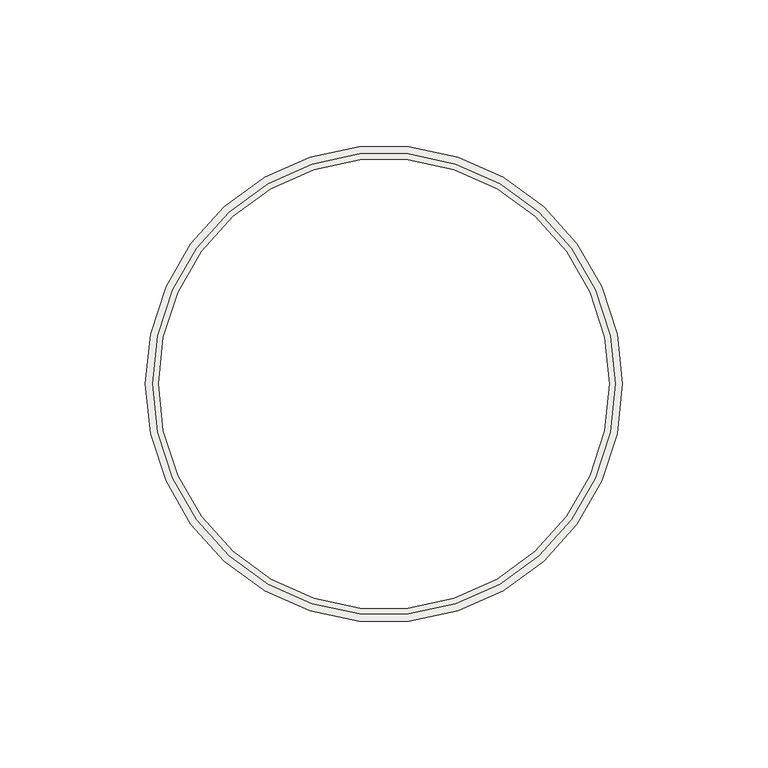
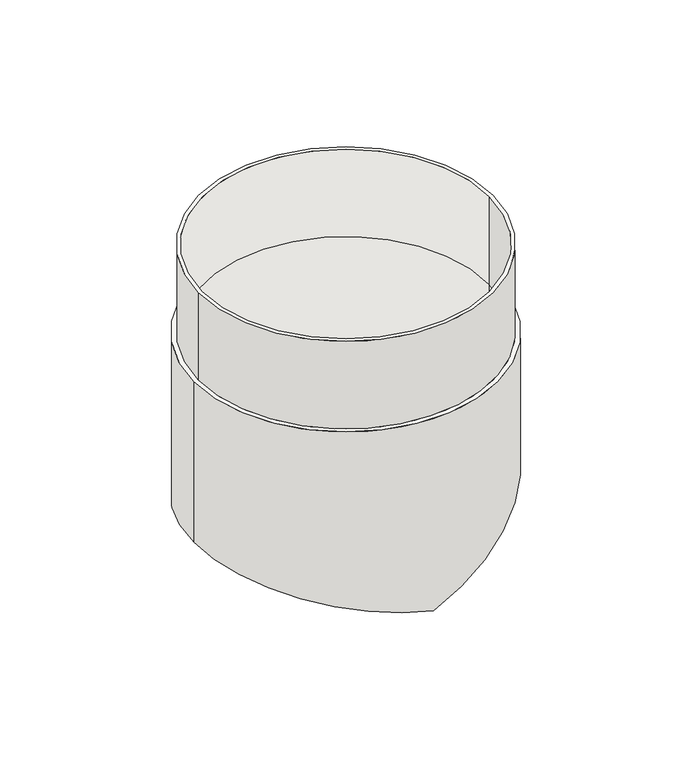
"""IFC4 building model written with IfcOpenShell, lengths in millimetres: covering geometry, NLRS_57_GM_WPB_adjustable collar_M&G : ø160 - Black."""

from ifc_helpers import new_model, si_unit, frame, origin, origin_with_axes, place, context, project, spatial, polyline, circle_curve, ellipse_curve, source, transform, mapped, element, save
from ifc_brep_helpers import plane_surface, cylinder_surface, revolved_surface, advanced_brep


def covering_a2d9a1ae(model_context):
    return source(origin(), model_context, "Body", "AdvancedBrep", [
        advanced_brep(
        [(-79.5, 0.0, 50.0), (79.5, 0.0, 50.0), (-77.5, 0.0, 50.0), (77.5, 0.0, 50.0), (-79.5, 0.0, 0.0), (79.5, 0.0, 0.0), (-77.5, 0.0, 0.0), (77.5, 0.0, 0.0), (-82.0, 0.0, 0.0), (82.0, 0.0, 0.0), (-82.0, 0.0, -91.8210377), (0.0, -82.0, -110.0), (82.0, 0.0, -71.762772), (0.0, 82.0, -110.0), (-77.5, 0.0, -92.8186636), (0.0, 77.5, -110.0), (77.5, 0.0, -73.8611565), (0.0, -77.5, -110.0)],
        [
            (0, 1, circle_curve(frame((0.0, 0.0, 50.0), z_axis=(0.0, 0.0, 1.0), x_axis=(1.0, 0.0, 0.0)), 79.5)),
            (1, 0, circle_curve(frame((0.0, 0.0, 50.0), z_axis=(0.0, 0.0, 1.0), x_axis=(1.0, 0.0, 0.0)), 79.5)),
            (2, 3, circle_curve(frame((0.0, 0.0, 50.0), z_axis=(0.0, 0.0, -1.0), x_axis=(1.0, 0.0, 0.0)), 77.5)),
            (3, 2, circle_curve(frame((0.0, 0.0, 50.0), z_axis=(0.0, 0.0, -1.0), x_axis=(1.0, 0.0, 0.0)), 77.5)),
            (0, 4),
            (4, 5, circle_curve(origin_with_axes(), 79.5)),
            (5, 1),
            (5, 4, circle_curve(origin_with_axes(), 79.5)),
            (2, 6),
            (6, 7, circle_curve(frame((0.0, 0.0, 0.0), z_axis=(0.0, 0.0, -1.0), x_axis=(1.0, 0.0, 0.0)), 77.5)),
            (7, 3),
            (7, 6, circle_curve(frame((0.0, 0.0, 0.0), z_axis=(0.0, 0.0, -1.0), x_axis=(1.0, 0.0, 0.0)), 77.5)),
            (8, 9, circle_curve(origin_with_axes(), 82.0)),
            (9, 8, circle_curve(origin_with_axes(), 82.0)),
            (8, 10),
            (10, 11, ellipse_curve(frame((0.0, 0.0, -110.0), z_axis=(0.21643961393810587, 0.0, 0.9762960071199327), x_axis=(-0.9762960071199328, 0.0, 0.21643961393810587)), 83.9909202, 82.0)),
            (11, 12, ellipse_curve(frame((0.0, 0.0, -110.0), z_axis=(-0.42261826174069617, 0.0, 0.9063077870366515), x_axis=(0.9063077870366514, 0.0, 0.4226182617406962)), 90.4769894, 82.0)),
            (12, 9),
            (12, 13, ellipse_curve(frame((0.0, 0.0, -110.0), z_axis=(-0.42261826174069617, 0.0, 0.9063077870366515), x_axis=(0.9063077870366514, 0.0, 0.4226182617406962)), 90.4769894, 82.0)),
            (13, 10, ellipse_curve(frame((0.0, 0.0, -110.0), z_axis=(0.21643961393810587, 0.0, 0.9762960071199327), x_axis=(-0.9762960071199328, 0.0, 0.21643961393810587)), 83.9909202, 82.0)),
            (6, 14),
            (14, 15, ellipse_curve(frame((0.0, 0.0, -110.0), z_axis=(-0.21643961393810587, 0.0, -0.9762960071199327), x_axis=(0.9762960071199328, 0.0, -0.21643961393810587)), 79.3816624, 77.5)),
            (15, 16, ellipse_curve(frame((0.0, 0.0, -110.0), z_axis=(0.42261826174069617, 0.0, -0.9063077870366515), x_axis=(-0.9063077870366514, 0.0, -0.4226182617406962)), 85.5117887, 77.5)),
            (16, 7),
            (16, 17, ellipse_curve(frame((0.0, 0.0, -110.0), z_axis=(0.42261826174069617, 0.0, -0.9063077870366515), x_axis=(-0.9063077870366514, 0.0, -0.4226182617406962)), 85.5117887, 77.5)),
            (17, 14, ellipse_curve(frame((0.0, 0.0, -110.0), z_axis=(-0.21643961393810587, 0.0, -0.9762960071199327), x_axis=(0.9762960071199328, 0.0, -0.21643961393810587)), 79.3816624, 77.5)),
            (11, 17),
            (15, 13),
        ],
        [
            plane_surface(frame((79.5, 0.0, 50.0), z_axis=(0.0, 0.0, 1.0), x_axis=(0.0, 1.0, 0.0))),
            cylinder_surface(origin_with_axes(), 79.5),
            revolved_surface(polyline([(77.5, 0.0, 0.0), (77.5, 0.0, 50.0)]), (0.0, 0.0, 0.0), (0.0, 0.0, -1.0)),
            plane_surface(frame((82.0, 0.0, 0.0), z_axis=(0.0, 0.0, 1.0), x_axis=(0.0, 1.0, 0.0))),
            cylinder_surface(frame((0.0, 0.0, -110.0), z_axis=(0.0, 0.0, 1.0), x_axis=(1.0, 0.0, 0.0)), 82.0),
            revolved_surface(polyline([(77.5, 0.0, -146.13884349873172), (77.5, 0.0, 0.0)]), (0.0, 0.0, 0.0), (0.0, 0.0, -1.0)),
            plane_surface(frame((114.0, -114.0, -56.840927), z_axis=(0.42261826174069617, 0.0, -0.9063077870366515), x_axis=(0.0, 1.0, 0.0))),
            plane_surface(frame((0.0, -114.0, -110.0), z_axis=(-0.21643961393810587, 0.0, -0.9762960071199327), x_axis=(0.0, 1.0, 0.0))),
        ],
        [
            (0, [[1, 2], [3, 4]]),
            (1, [[-1, 5, 6, 7]]),
            (1, [[-2, -7, 8, -5]]),
            (2, [[-3, 9, 10, 11]]),
            (2, [[-4, -11, 12, -9]]),
            (3, [[13, 14], [-6, -8]]),
            (4, [[-13, 15, 16, 17, 18]]),
            (4, [[-14, -18, 19, 20, -15]]),
            (5, [[21, 22, 23, 24, -10]]),
            (5, [[-21, -12, -24, 25, 26]]),
            (6, [[27, -25, -23, 28, -19, -17]]),
            (7, [[-27, -16, -20, -28, -22, -26]]),
        ],
    ),
    ])


if __name__ == "__main__":
    model = new_model("IFC4")
    model_context = context("Model", 3, world=origin())
    ifc_project = project(units=[si_unit("LENGTHUNIT", "METRE", prefix="MILLI")], contexts=[model_context])
    site = spatial("IfcSite", under=ifc_project)
    building = spatial("IfcBuilding", under=site)
    placement = place(None, origin())
    covering_shape = covering_a2d9a1ae(model_context)
    element("IfcCovering", 1, ObjectType="NLRS_57_GM_WPB_adjustable collar_M&G : ø160 - Black", at=placement, inside=building, context=model_context, shape_type="MappedRepresentation", body=[
        mapped(covering_shape, transform((0.0, 0.0, 0.0), x_axis=(1.0, 0.0, 0.0), y_axis=(0.0, 1.0, 0.0), z_axis=(0.0, 0.0, 1.0))),
    ])
    save(model, "model.ifc")
